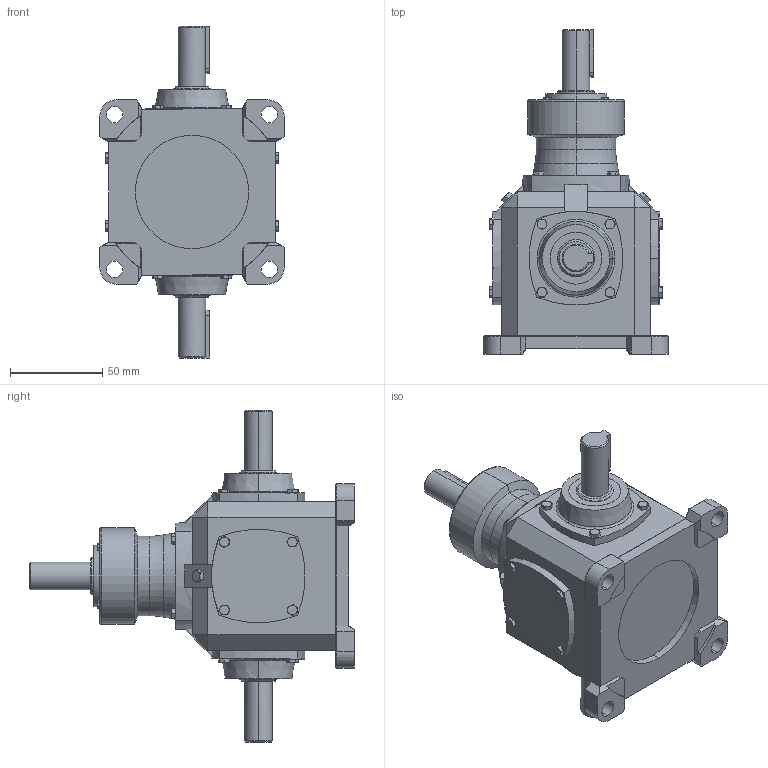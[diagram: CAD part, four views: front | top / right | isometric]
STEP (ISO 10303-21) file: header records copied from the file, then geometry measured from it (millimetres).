
FILE_DESCRIPTION (( 'STEP AP203' ), '1' );
FILE_NAME ('TC2-1-WS1-V4.step', '2018-07-13T04:05:14', ( 'IT Division' ), ( 'IT' ), 'SwSTEP 2.0', 'SolidWorks 2016', '' );
FILE_SCHEMA (( 'CONFIG_CONTROL_DESIGN' ));
Length unit declared in the file: millimetre
Products named in the file (1): TC2-1-WS1-V4
Bounding box: 100 x 176 x 180 mm (x, y, z)
Volume: 733120.2 mm3; surface area: 77894.6 mm2
Topology: 2 solids, 2 shells, 588 faces, 1399 edges, 854 vertices
Faces by surface type: plane 284, cone 199, cylinder 93, torus 12
Entity records: 17601 total; most frequent: CARTESIAN_POINT 4447, ORIENTED_EDGE 2798, DIRECTION 2593, EDGE_CURVE 1399, AXIS2_PLACEMENT_3D 970, VERTEX_POINT 854, LINE 653, VECTOR 653
